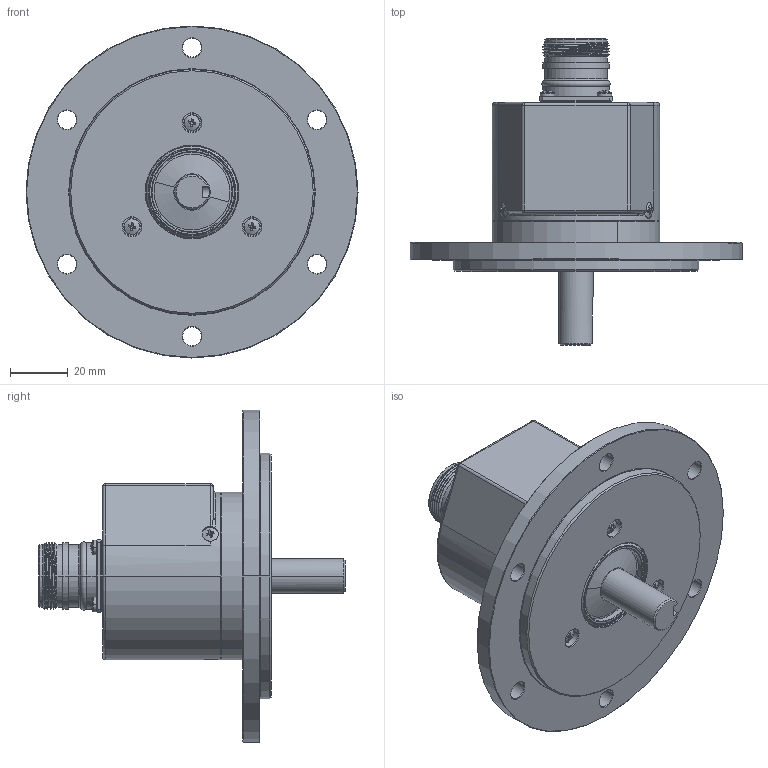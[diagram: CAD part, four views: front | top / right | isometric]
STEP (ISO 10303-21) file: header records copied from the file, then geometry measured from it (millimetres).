
FILE_DESCRIPTION (( 'STEP AP214' ), '1' );
FILE_NAME ('H2RxEx.STEP', '2025-12-01T10:19:32', ( '' ), ( '' ), 'SwSTEP 2.0', 'SolidWorks 2019', '' );
FILE_SCHEMA (( 'AUTOMOTIVE_DESIGN' ));
Length unit declared in the file: millimetre
Products named in the file (1): H2RxEx
Bounding box: 115 x 106 x 115 mm (x, y, z)
Volume: 152150.2 mm3; surface area: 58048 mm2
Topology: 1 solids, 11 shells, 932 faces, 2121 edges, 1240 vertices
Faces by surface type: plane 300, cone 261, cylinder 243, torus 80, bspline 44, sphere 4
Entity records: 38841 total; most frequent: CARTESIAN_POINT 7859, DIRECTION 4624, ORIENTED_EDGE 4154, EDGE_CURVE 2077, AXIS2_PLACEMENT_3D 1939, VERTEX_POINT 1240, CIRCLE 1050, EDGE_LOOP 1029
